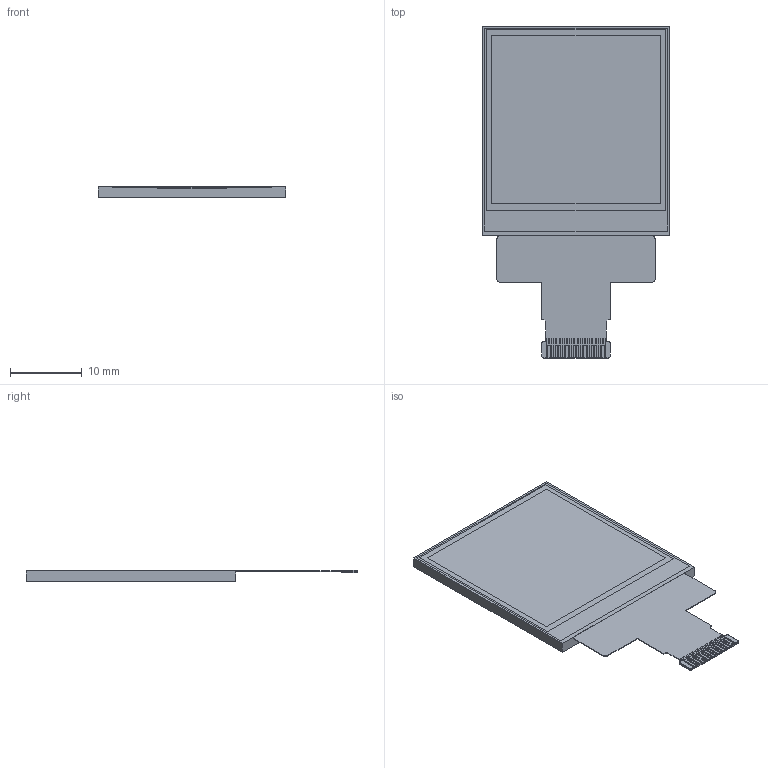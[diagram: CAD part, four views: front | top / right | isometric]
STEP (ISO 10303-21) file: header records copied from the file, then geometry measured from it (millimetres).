
FILE_DESCRIPTION (( 'STEP AP214' ), '1' );
FILE_NAME ('CFAF240240A3-013TN.STEP', '2022-03-17T20:09:23', ( '' ), ( '' ), 'SwSTEP 2.0', 'SolidWorks 2021', '' );
FILE_SCHEMA (( 'AUTOMOTIVE_DESIGN' ));
Length unit declared in the file: millimetre
Products named in the file (1): CFAF240240A3-013TN
Bounding box: 26 x 46.15 x 1.55 mm (x, y, z)
Volume: 1165.4 mm3; surface area: 2250.1 mm2
Topology: 21 solids, 21 shells, 231 faces, 570 edges, 384 vertices
Faces by surface type: plane 215, cylinder 16
Entity records: 9432 total; most frequent: CARTESIAN_POINT 1186, ORIENTED_EDGE 1140, DIRECTION 1066, EDGE_CURVE 570, LINE 538, VECTOR 538, VERTEX_POINT 384, AXIS2_PLACEMENT_3D 264
